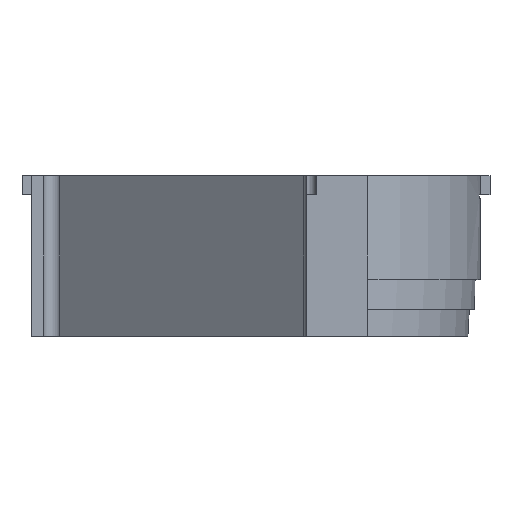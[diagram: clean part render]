
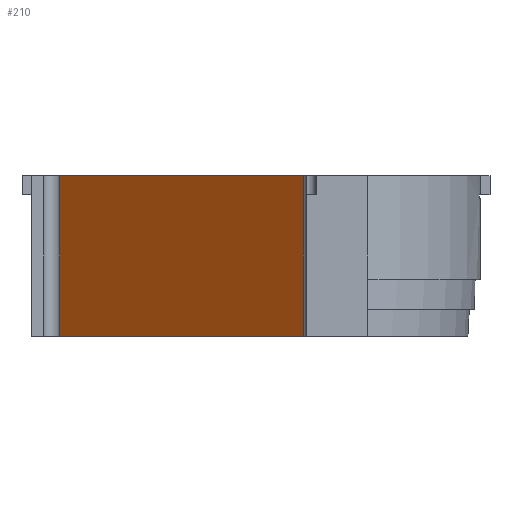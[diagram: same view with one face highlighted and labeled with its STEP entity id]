
A CAD part, left-side view. The second image highlights one B-rep face of the part: STEP entity #210.
In plain terms, the highlighted planar face has unit normal (-0.766, 0.643, 0).
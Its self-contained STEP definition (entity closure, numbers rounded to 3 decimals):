
#210=ADVANCED_FACE('',(#3009),#3011,.T.);
#3009=FACE_BOUND('',#3010,.T.);
#3010=EDGE_LOOP('',(#13213,#13214,#13215,#13216));
#3011=PLANE('',#3012);
#3012=AXIS2_PLACEMENT_3D('',#3013,#3014,#3015);
#3013=CARTESIAN_POINT('',(10.195,101.569,-83.2));
#3014=DIRECTION('',(-0.766,0.643,0.));
#3015=DIRECTION('',(-0.643,-0.766,0.));
#13213=ORIENTED_EDGE('',*,*,#14804,.T.);
#13214=ORIENTED_EDGE('',*,*,#14803,.T.);
#13215=ORIENTED_EDGE('',*,*,#14805,.F.);
#13216=ORIENTED_EDGE('',*,*,#14806,.F.);
#14803=EDGE_CURVE('',#15684,#15686,#15688,.T.);
#14804=EDGE_CURVE('',#15689,#15684,#15690,.T.);
#14805=EDGE_CURVE('',#15691,#15686,#15692,.T.);
#14806=EDGE_CURVE('',#15689,#15691,#15693,.T.);
#15684=VERTEX_POINT('',#17394);
#15686=VERTEX_POINT('',#17399);
#15688=LINE('',#17404,#17405);
#15689=VERTEX_POINT('',#17407);
#15690=LINE('',#17408,#17409);
#15691=VERTEX_POINT('',#17411);
#15692=LINE('',#17412,#17413);
#15693=LINE('',#17415,#17416);
#17394=CARTESIAN_POINT('',(-95.601,-24.514,-83.2));
#17399=CARTESIAN_POINT('',(-95.601,-24.514,0.));
#17404=CARTESIAN_POINT('',(-95.601,-24.514,-83.2));
#17405=VECTOR('',#17406,1.);
#17406=DIRECTION('',(0.,0.,1.));
#17407=CARTESIAN_POINT('',(10.195,101.569,-83.2));
#17408=CARTESIAN_POINT('',(10.195,101.569,-83.2));
#17409=VECTOR('',#17410,1.);
#17410=DIRECTION('',(-0.643,-0.766,0.));
#17411=CARTESIAN_POINT('',(10.195,101.569,0.));
#17412=CARTESIAN_POINT('',(10.195,101.569,0.));
#17413=VECTOR('',#17414,1.);
#17414=DIRECTION('',(-0.643,-0.766,0.));
#17415=CARTESIAN_POINT('',(10.195,101.569,-83.2));
#17416=VECTOR('',#17417,1.);
#17417=DIRECTION('',(0.,0.,1.));
